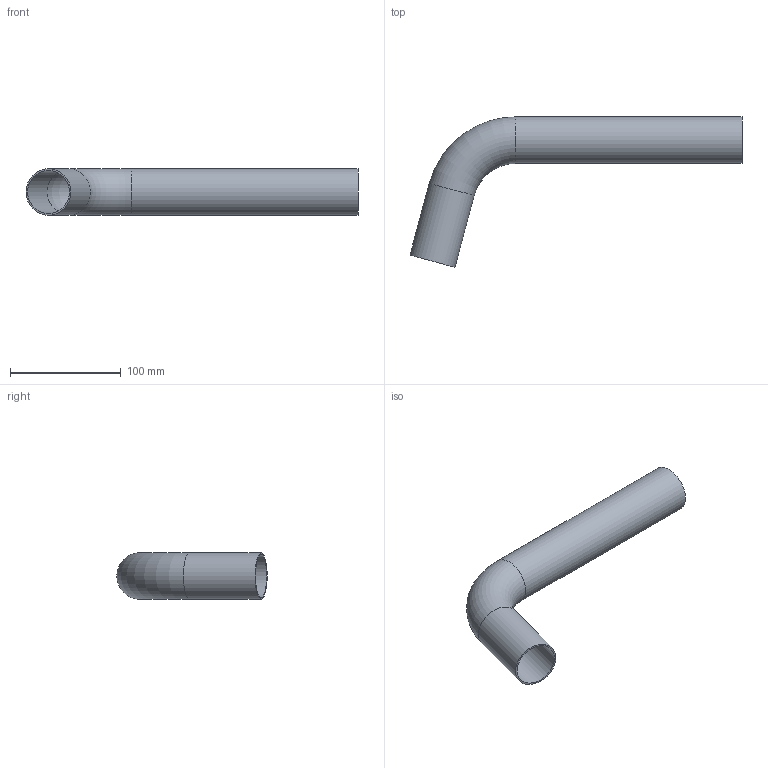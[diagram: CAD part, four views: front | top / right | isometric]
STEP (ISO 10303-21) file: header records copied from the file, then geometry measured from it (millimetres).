
FILE_DESCRIPTION((''),'2;1');
FILE_NAME('G:\Technics\CAD\Bauteile\042\6904542(1).stp','2008-03-03T13:39:05',('herberg'),(''),'Autodesk Inventor 2008','Autodesk Inventor 2008','');
FILE_SCHEMA(('AUTOMOTIVE_DESIGN { 1 0 10303 214 1 1 1 1 }'));
Length unit declared in the file: millimetre
Products named in the file (1): 6904542(1)
Bounding box: 299.53 x 135.58 x 42 mm (x, y, z)
Volume: 66695.2 mm3; surface area: 89308.6 mm2
Topology: 1 solids, 1 shells, 8 faces, 14 edges, 8 vertices
Faces by surface type: cylinder 4, torus 2, plane 2
Full cylindrical faces by diameter (mm): 39 x2, 42 x2
Entity records: 194 total; most frequent: DIRECTION 34, CARTESIAN_POINT 25, AXIS2_PLACEMENT_3D 17, ORIENTED_EDGE 16, EDGE_LOOP 16, VERTEX_POINT 8, CIRCLE 8, EDGE_CURVE 8
